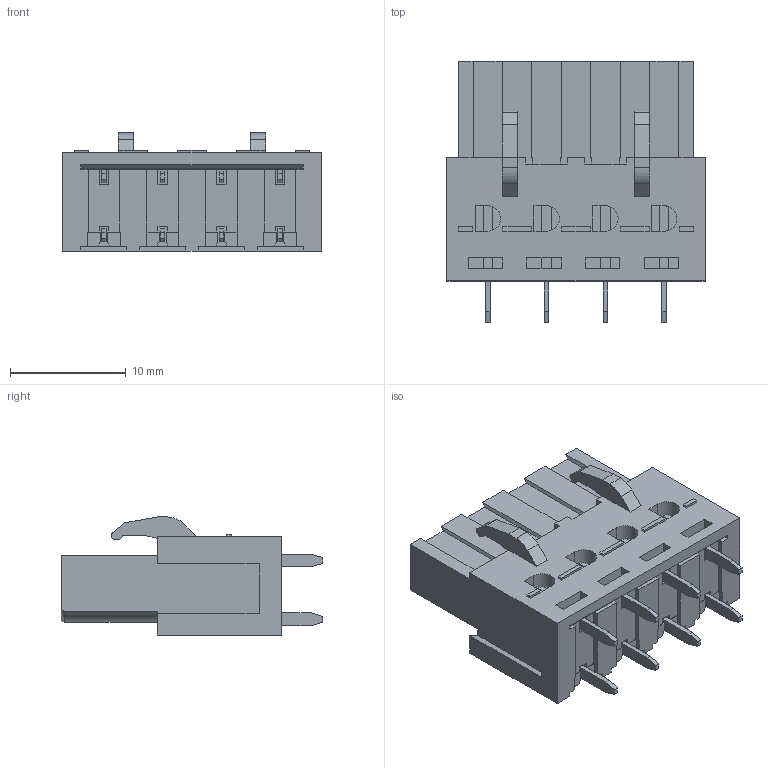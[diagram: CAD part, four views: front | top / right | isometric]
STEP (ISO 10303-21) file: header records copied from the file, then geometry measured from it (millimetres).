
FILE_DESCRIPTION(('STEP AP203'), '1');
FILE_NAME('WJ2EDGB-5.08-04P', '', ('UNSPECIFIED'), ('UNSPECIFIED'), 'C3D Converter', 'C3D Toolkit', '');
FILE_SCHEMA(('CONFIG_CONTROL_DESIGN'));
Length unit declared in the file: millimetre
Products named in the file (2): KLR2GB-5.08-04P
Assembly tree (1 placements, depth 2):
  KLR2GB-5.08-04P
    KLR2GB-5.08-04P
Bounding box: 22.32 x 22.6 x 10.2 mm (x, y, z)
Volume: 2552.9 mm3; surface area: 2270.5 mm2
Topology: 9 solids, 9 shells, 398 faces, 1065 edges, 694 vertices
Faces by surface type: plane 361, bspline 37
Entity records: 16417 total; most frequent: CARTESIAN_POINT 3633, ORIENTED_EDGE 2106, DIRECTION 1670, EDGE_CURVE 1053, LINE 944, VECTOR 944, VERTEX_POINT 694, EDGE_LOOP 419
